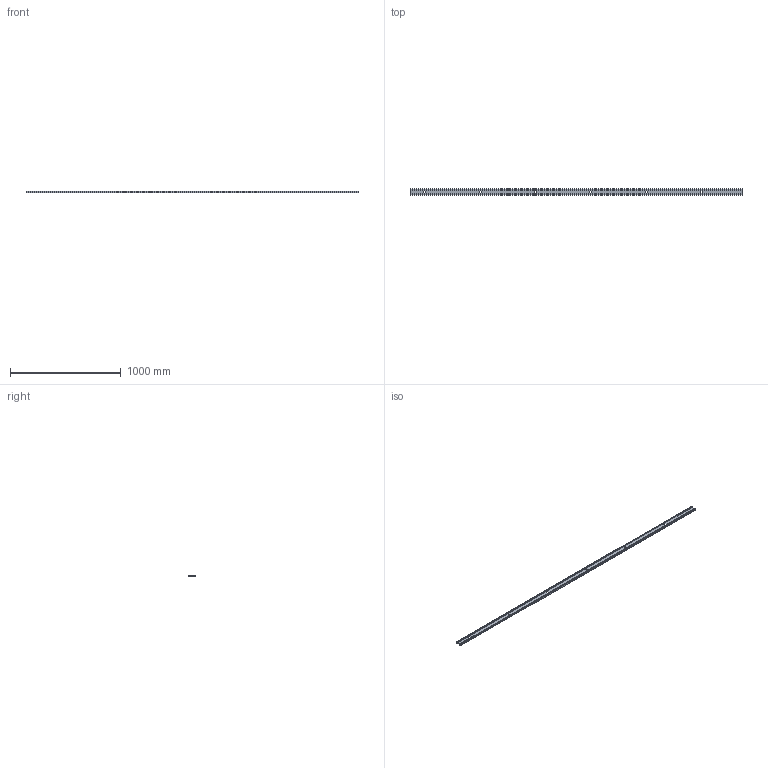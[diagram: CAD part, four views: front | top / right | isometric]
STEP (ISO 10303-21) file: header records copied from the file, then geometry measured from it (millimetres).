
FILE_DESCRIPTION(('STEP AP242'),'1');
FILE_NAME('OPO_65.081.74_volu_schn_3d.stp','2026-01-30T20:51:48',(' '),(' '),'Spatial InterOp 3D',' ',' ');
FILE_SCHEMA(('AP242_MANAGED_MODEL_BASED_3D_ENGINEERING_MIM_LF {1 0 10303 442 1 1 4}'));
Length unit declared in the file: millimetre
Products named in the file (1): 1
Bounding box: 3000 x 55 x 15 mm (x, y, z)
Volume: 738168 mm3; surface area: 645904 mm2
Topology: 1 solids, 1 shells, 96 faces, 457 edges, 556 vertices
Faces by surface type: plane 76, cylinder 20
Entity records: 6159 total; most frequent: CARTESIAN_POINT 733, DIRECTION 713, ORIENTED_EDGE 536, LINE 397, VECTOR 397, STYLED_ITEM 285, PRESENTATION_STYLE_ASSIGNMENT 285, COLOUR_RGB 285
